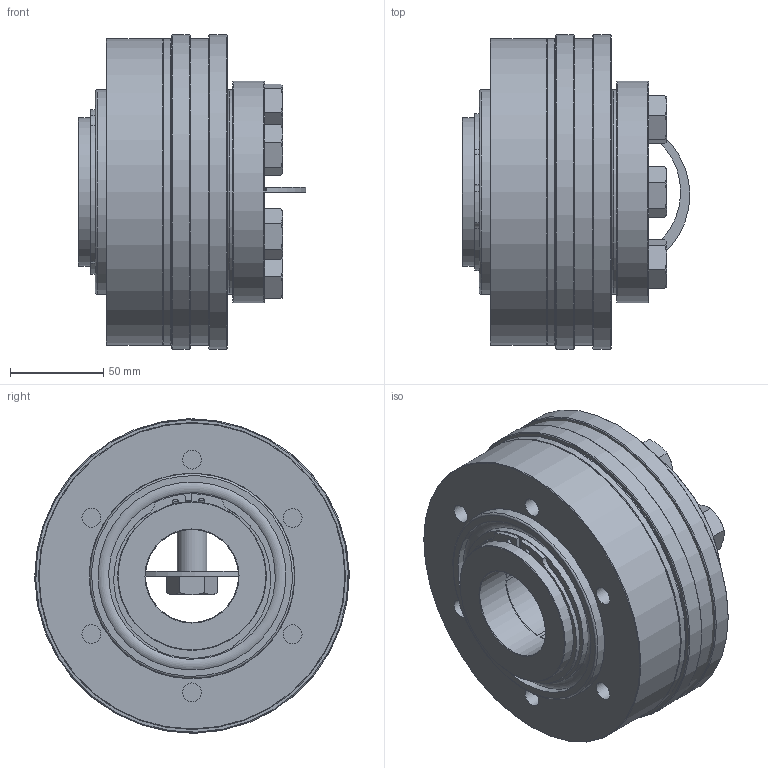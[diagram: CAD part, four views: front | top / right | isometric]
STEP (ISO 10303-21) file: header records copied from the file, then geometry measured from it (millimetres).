
FILE_DESCRIPTION( ( 'Unknown' ), '1' );
FILE_NAME( 'C:/Dokumente und Einstellungen/Sven/Desktop/hp kbk/KBK L-I-800.stp', 'Unknown', ( 'Unknown' ), ( 'Unknown' ), 'XStep 1.0', 'Unknown', ' ' );
FILE_SCHEMA( ( 'automotive_design' ) );
Length unit declared in the file: millimetre
Products named in the file (12): Assem1; Assem2; ball_bearing_-_61916_0_01_0; ball_bearing_-_61916_0_02_0; ball_bearing_-_61916_0_03_0; Stellring 800_0; Druckring 800_0; a_80_0; KBK L-I-800 Grundkörper_0; Konusbuchse 800_0; Flansch 800_0; din_en_24017_m16x45_0
Bounding box: 122.4 x 169 x 169 mm (x, y, z)
Volume: 2592588.3 mm3; surface area: 614006.2 mm2
Topology: 28 solids, 28 shells, 503 faces, 1062 edges, 676 vertices
Faces by surface type: plane 199, cylinder 150, cone 122, torus 32
Full cylindrical faces by diameter (mm): 3 x4, 4.917 x6, 6.2 x6, 8.1 x6, 10.106 x12, 13.835 x18, 16 x7, 17.5 x12, 22.49 x7, 50 x4, 69.997 x2, 76.5 x2, 80 x7, 89.6 x6, 100 x2, 101 x6, 110 x5, 119 x2, 120 x4, 135 x2, 148 x2, 149 x2, 165 x4, 169 x2
Entity records: 5215 total; most frequent: CARTESIAN_POINT 1193, DIRECTION 854, ORIENTED_EDGE 556, AXIS2_PLACEMENT_3D 397, EDGE_LOOP 350, EDGE_CURVE 278, FACE_OUTER_BOUND 253, VERTEX_POINT 230
